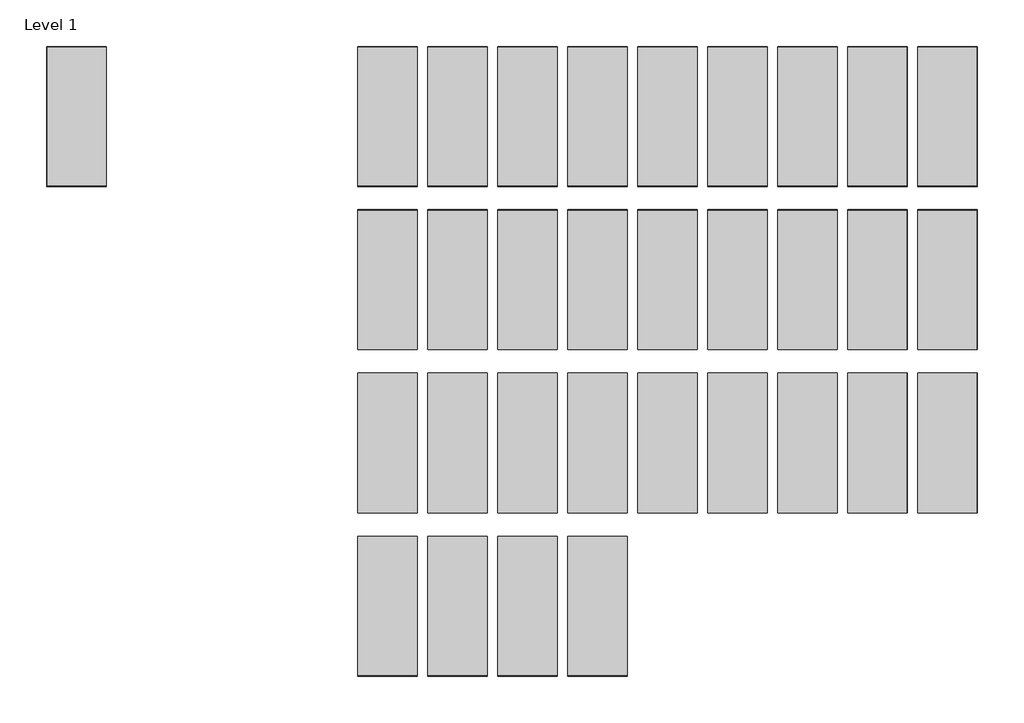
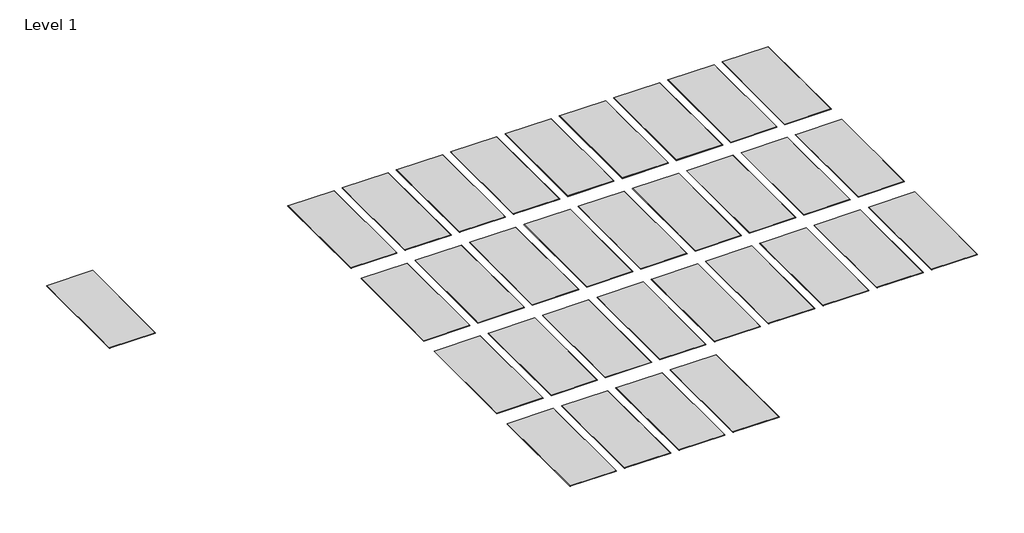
# One storey: 32 proxies.
"""IFC4 building model written with IfcOpenShell, lengths in millimetres."""

from ifc_helpers import new_model, si_unit, origin, place, context, project, spatial, transform, mapped, element, save
from components import proxy_101_frost_12_mm_5309bba6

model = new_model("IFC4")

# Units and contexts
model_context = context("Model", 3, world=origin())
ifc_project = project(units=[si_unit("LENGTHUNIT", "METRE", prefix="MILLI")], contexts=[model_context])

# Site, building, storey
site = spatial("IfcSite", under=ifc_project)
building = spatial("IfcBuilding", under=site)
storey = spatial("IfcBuildingStorey", under=building, Name="Level 1", Elevation=0.0)

# Proxies
placement = place(None, origin())
proxy_101_frost_12_mm_shape = proxy_101_frost_12_mm_5309bba6(model_context)
element("IfcBuildingElementProxy", 1, Name="Wall-Panel-Kirei_USA-EchoLine-Roman_Panels : 108 Sunshine - 12 mm", ObjectType="Wall-Panel-Kirei_USA-EchoLine-Roman_Panels : 108 Sunshine - 12 mm", at=placement, inside=storey, context=model_context, shape_type="MappedRepresentation", body=[
    mapped(proxy_101_frost_12_mm_shape, transform((1981.2, -21640.8, 0.0), x_axis=(1.0, 0.0, 0.0), y_axis=(0.0, 1.0, 0.0), z_axis=(0.0, 0.0, 1.0))),
])
element("IfcBuildingElementProxy", 2, Name="Wall-Panel-Kirei_USA-EchoLine-Roman_Panels : 167 Cinnamon - 12 mm", ObjectType="Wall-Panel-Kirei_USA-EchoLine-Roman_Panels : 167 Cinnamon - 12 mm", at=placement, inside=storey, context=model_context, shape_type="MappedRepresentation", body=[
    mapped(proxy_101_frost_12_mm_shape, transform((4724.4, -21640.8, 0.0), x_axis=(1.0, 0.0, 0.0), y_axis=(0.0, 1.0, 0.0), z_axis=(0.0, 0.0, 1.0))),
])
element("IfcBuildingElementProxy", 3, Name="Wall-Panel-Kirei_USA-EchoLine-Roman_Panels : 274 Orchid - 12 mm", ObjectType="Wall-Panel-Kirei_USA-EchoLine-Roman_Panels : 274 Orchid - 12 mm", at=placement, inside=storey, context=model_context, shape_type="MappedRepresentation", body=[
    mapped(proxy_101_frost_12_mm_shape, transform((8839.2, -21640.8, 0.0), x_axis=(1.0, 0.0, 0.0), y_axis=(0.0, 1.0, 0.0), z_axis=(0.0, 0.0, 1.0))),
])
element("IfcBuildingElementProxy", 4, Name="Wall-Panel-Kirei_USA-EchoLine-Roman_Panels : 295 Mandarin - 12 mm", ObjectType="Wall-Panel-Kirei_USA-EchoLine-Roman_Panels : 295 Mandarin - 12 mm", at=placement, inside=storey, context=model_context, shape_type="MappedRepresentation", body=[
    mapped(proxy_101_frost_12_mm_shape, transform((11582.4, -21640.8, 0.0), x_axis=(1.0, 0.0, 0.0), y_axis=(0.0, 1.0, 0.0), z_axis=(0.0, 0.0, 1.0))),
])
element("IfcBuildingElementProxy", 5, Name="Wall-Panel-Kirei_USA-EchoLine-Roman_Panels : 330 Ivy - 12 mm", ObjectType="Wall-Panel-Kirei_USA-EchoLine-Roman_Panels : 330 Ivy - 12 mm", at=placement, inside=storey, context=model_context, shape_type="MappedRepresentation", body=[
    mapped(proxy_101_frost_12_mm_shape, transform((609.6, -24841.2, 0.0), x_axis=(1.0, 0.0, 0.0), y_axis=(0.0, 1.0, 0.0), z_axis=(0.0, 0.0, 1.0))),
])
element("IfcBuildingElementProxy", 6, Name="Wall-Panel-Kirei_USA-EchoLine-Roman_Panels : 338 Jade - 12 mm", ObjectType="Wall-Panel-Kirei_USA-EchoLine-Roman_Panels : 338 Jade - 12 mm", at=placement, inside=storey, context=model_context, shape_type="MappedRepresentation", body=[
    mapped(proxy_101_frost_12_mm_shape, transform((1981.2, -24841.2, 0.0), x_axis=(1.0, 0.0, 0.0), y_axis=(0.0, 1.0, 0.0), z_axis=(0.0, 0.0, 1.0))),
])
element("IfcBuildingElementProxy", 7, Name="Wall-Panel-Kirei_USA-EchoLine-Roman_Panels : 349 Vineyard - 12 mm", ObjectType="Wall-Panel-Kirei_USA-EchoLine-Roman_Panels : 349 Vineyard - 12 mm", at=placement, inside=storey, context=model_context, shape_type="MappedRepresentation", body=[
    mapped(proxy_101_frost_12_mm_shape, transform((3352.8, -24841.2, 0.0), x_axis=(1.0, 0.0, 0.0), y_axis=(0.0, 1.0, 0.0), z_axis=(0.0, 0.0, 1.0))),
])
element("IfcBuildingElementProxy", 8, Name="Wall-Panel-Kirei_USA-EchoLine-Roman_Panels : 551 Duck Egg - 12 mm", ObjectType="Wall-Panel-Kirei_USA-EchoLine-Roman_Panels : 551 Duck Egg - 12 mm", at=placement, inside=storey, context=model_context, shape_type="MappedRepresentation", body=[
    mapped(proxy_101_frost_12_mm_shape, transform((10210.8, -28041.6, 0.0), x_axis=(1.0, 0.0, 0.0), y_axis=(0.0, 1.0, 0.0), z_axis=(0.0, 0.0, 1.0))),
])
element("IfcBuildingElementProxy", 9, Name="Wall-Panel-Kirei_USA-EchoLine-Roman_Panels : 579 Pistachio - 12 mm", ObjectType="Wall-Panel-Kirei_USA-EchoLine-Roman_Panels : 579 Pistachio - 12 mm", at=placement, inside=storey, context=model_context, shape_type="MappedRepresentation", body=[
    mapped(proxy_101_frost_12_mm_shape, transform((11582.4, -28041.6, 0.0), x_axis=(1.0, 0.0, 0.0), y_axis=(0.0, 1.0, 0.0), z_axis=(0.0, 0.0, 1.0))),
])
element("IfcBuildingElementProxy", 10, Name="Wall-Panel-Kirei_USA-EchoLine-Roman_Panels : 633 Pacific - 12 mm", ObjectType="Wall-Panel-Kirei_USA-EchoLine-Roman_Panels : 633 Pacific - 12 mm", at=placement, inside=storey, context=model_context, shape_type="MappedRepresentation", body=[
    mapped(proxy_101_frost_12_mm_shape, transform((1981.2, -31242.0, 0.0), x_axis=(1.0, 0.0, 0.0), y_axis=(0.0, 1.0, 0.0), z_axis=(0.0, 0.0, 1.0))),
])
element("IfcBuildingElementProxy", 11, Name="Wall-Panel-Kirei_USA-EchoLine-Roman_Panels : 660 Coronet - 12 mm", ObjectType="Wall-Panel-Kirei_USA-EchoLine-Roman_Panels : 660 Coronet - 12 mm", at=placement, inside=storey, context=model_context, shape_type="MappedRepresentation", body=[
    mapped(proxy_101_frost_12_mm_shape, transform((3352.8, -31242.0, 0.0), x_axis=(1.0, 0.0, 0.0), y_axis=(0.0, 1.0, 0.0), z_axis=(0.0, 0.0, 1.0))),
])
element("IfcBuildingElementProxy", 12, Name="Wall-Panel-Kirei_USA-EchoLine-Roman_Panels : 101 Frost - 12 mm", ObjectType="Wall-Panel-Kirei_USA-EchoLine-Roman_Panels : 101 Frost - 12 mm", at=placement, inside=storey, context=model_context, shape_type="MappedRepresentation", body=[
    mapped(proxy_101_frost_12_mm_shape, transform((609.6, -21640.8, 0.0), x_axis=(1.0, 0.0, 0.0), y_axis=(0.0, 1.0, 0.0), z_axis=(0.0, 0.0, 1.0))),
])
element("IfcBuildingElementProxy", 13, Name="Wall-Panel-Kirei_USA-EchoLine-Roman_Panels : 101 Frost - 12 mm", ObjectType="Wall-Panel-Kirei_USA-EchoLine-Roman_Panels : 101 Frost - 12 mm", at=placement, inside=storey, context=model_context, shape_type="MappedRepresentation", body=[
    mapped(proxy_101_frost_12_mm_shape, transform((-5486.4, -21640.8, 0.0), x_axis=(1.0, 0.0, 0.0), y_axis=(0.0, 1.0, 0.0), z_axis=(0.0, 0.0, 1.0))),
])
element("IfcBuildingElementProxy", 14, Name="Wall-Panel-Kirei_USA-EchoLine-Roman_Panels : 124 Ochre - 12 mm", ObjectType="Wall-Panel-Kirei_USA-EchoLine-Roman_Panels : 124 Ochre - 12 mm", at=placement, inside=storey, context=model_context, shape_type="MappedRepresentation", body=[
    mapped(proxy_101_frost_12_mm_shape, transform((3352.8, -21640.8, 0.0), x_axis=(1.0, 0.0, 0.0), y_axis=(0.0, 1.0, 0.0), z_axis=(0.0, 0.0, 1.0))),
])
element("IfcBuildingElementProxy", 15, Name="Wall-Panel-Kirei_USA-EchoLine-Roman_Panels : 193 Rouge - 12 mm", ObjectType="Wall-Panel-Kirei_USA-EchoLine-Roman_Panels : 193 Rouge - 12 mm", at=placement, inside=storey, context=model_context, shape_type="MappedRepresentation", body=[
    mapped(proxy_101_frost_12_mm_shape, transform((6096.0, -21640.8, 0.0), x_axis=(1.0, 0.0, 0.0), y_axis=(0.0, 1.0, 0.0), z_axis=(0.0, 0.0, 1.0))),
])
element("IfcBuildingElementProxy", 16, Name="Wall-Panel-Kirei_USA-EchoLine-Roman_Panels : 269 Wine - 12 mm", ObjectType="Wall-Panel-Kirei_USA-EchoLine-Roman_Panels : 269 Wine - 12 mm", at=placement, inside=storey, context=model_context, shape_type="MappedRepresentation", body=[
    mapped(proxy_101_frost_12_mm_shape, transform((7467.6, -21640.8, 0.0), x_axis=(1.0, 0.0, 0.0), y_axis=(0.0, 1.0, 0.0), z_axis=(0.0, 0.0, 1.0))),
])
element("IfcBuildingElementProxy", 17, Name="Wall-Panel-Kirei_USA-EchoLine-Roman_Panels : 276 Lavender - 12 mm", ObjectType="Wall-Panel-Kirei_USA-EchoLine-Roman_Panels : 276 Lavender - 12 mm", at=placement, inside=storey, context=model_context, shape_type="MappedRepresentation", body=[
    mapped(proxy_101_frost_12_mm_shape, transform((10210.8, -21640.8, 0.0), x_axis=(1.0, 0.0, 0.0), y_axis=(0.0, 1.0, 0.0), z_axis=(0.0, 0.0, 1.0))),
])
element("IfcBuildingElementProxy", 18, Name="Wall-Panel-Kirei_USA-EchoLine-Roman_Panels : 365 Navy - 12 mm", ObjectType="Wall-Panel-Kirei_USA-EchoLine-Roman_Panels : 365 Navy - 12 mm", at=placement, inside=storey, context=model_context, shape_type="MappedRepresentation", body=[
    mapped(proxy_101_frost_12_mm_shape, transform((4724.4, -24841.2, 0.0), x_axis=(1.0, 0.0, 0.0), y_axis=(0.0, 1.0, 0.0), z_axis=(0.0, 0.0, 1.0))),
])
element("IfcBuildingElementProxy", 19, Name="Wall-Panel-Kirei_USA-EchoLine-Roman_Panels : 381 Lime Splice - 12 mm", ObjectType="Wall-Panel-Kirei_USA-EchoLine-Roman_Panels : 381 Lime Splice - 12 mm", at=placement, inside=storey, context=model_context, shape_type="MappedRepresentation", body=[
    mapped(proxy_101_frost_12_mm_shape, transform((6096.0, -24841.2, 0.0), x_axis=(1.0, 0.0, 0.0), y_axis=(0.0, 1.0, 0.0), z_axis=(0.0, 0.0, 1.0))),
])
element("IfcBuildingElementProxy", 20, Name="Wall-Panel-Kirei_USA-EchoLine-Roman_Panels : 384 Olive - 12 mm", ObjectType="Wall-Panel-Kirei_USA-EchoLine-Roman_Panels : 384 Olive - 12 mm", at=placement, inside=storey, context=model_context, shape_type="MappedRepresentation", body=[
    mapped(proxy_101_frost_12_mm_shape, transform((7467.6, -24841.2, 0.0), x_axis=(1.0, 0.0, 0.0), y_axis=(0.0, 1.0, 0.0), z_axis=(0.0, 0.0, 1.0))),
])
element("IfcBuildingElementProxy", 21, Name="Wall-Panel-Kirei_USA-EchoLine-Roman_Panels : 402 Pebble - 12 mm", ObjectType="Wall-Panel-Kirei_USA-EchoLine-Roman_Panels : 402 Pebble - 12 mm", at=placement, inside=storey, context=model_context, shape_type="MappedRepresentation", body=[
    mapped(proxy_101_frost_12_mm_shape, transform((8839.2, -24841.2, 0.0), x_axis=(1.0, 0.0, 0.0), y_axis=(0.0, 1.0, 0.0), z_axis=(0.0, 0.0, 1.0))),
])
element("IfcBuildingElementProxy", 22, Name="Wall-Panel-Kirei_USA-EchoLine-Roman_Panels : 442 Gray - 12 mm", ObjectType="Wall-Panel-Kirei_USA-EchoLine-Roman_Panels : 442 Gray - 12 mm", at=placement, inside=storey, context=model_context, shape_type="MappedRepresentation", body=[
    mapped(proxy_101_frost_12_mm_shape, transform((10210.8, -24841.2, 0.0), x_axis=(1.0, 0.0, 0.0), y_axis=(0.0, 1.0, 0.0), z_axis=(0.0, 0.0, 1.0))),
])
element("IfcBuildingElementProxy", 23, Name="Wall-Panel-Kirei_USA-EchoLine-Roman_Panels : 444 Smoke - 12 mm", ObjectType="Wall-Panel-Kirei_USA-EchoLine-Roman_Panels : 444 Smoke - 12 mm", at=placement, inside=storey, context=model_context, shape_type="MappedRepresentation", body=[
    mapped(proxy_101_frost_12_mm_shape, transform((11582.4, -24841.2, 0.0), x_axis=(1.0, 0.0, 0.0), y_axis=(0.0, 1.0, 0.0), z_axis=(0.0, 0.0, 1.0))),
])
element("IfcBuildingElementProxy", 24, Name="Wall-Panel-Kirei_USA-EchoLine-Roman_Panels : 447 Slate - 12 mm", ObjectType="Wall-Panel-Kirei_USA-EchoLine-Roman_Panels : 447 Slate - 12 mm", at=placement, inside=storey, context=model_context, shape_type="MappedRepresentation", body=[
    mapped(proxy_101_frost_12_mm_shape, transform((609.6, -28041.6, 0.0), x_axis=(1.0, 0.0, 0.0), y_axis=(0.0, 1.0, 0.0), z_axis=(0.0, 0.0, 1.0))),
])
element("IfcBuildingElementProxy", 25, Name="Wall-Panel-Kirei_USA-EchoLine-Roman_Panels : 454 Mushroom - 12 mm", ObjectType="Wall-Panel-Kirei_USA-EchoLine-Roman_Panels : 454 Mushroom - 12 mm", at=placement, inside=storey, context=model_context, shape_type="MappedRepresentation", body=[
    mapped(proxy_101_frost_12_mm_shape, transform((1981.2, -28041.6, 0.0), x_axis=(1.0, 0.0, 0.0), y_axis=(0.0, 1.0, 0.0), z_axis=(0.0, 0.0, 1.0))),
])
element("IfcBuildingElementProxy", 26, Name="Wall-Panel-Kirei_USA-EchoLine-Roman_Panels : 468 Vanilla - 12 mm", ObjectType="Wall-Panel-Kirei_USA-EchoLine-Roman_Panels : 468 Vanilla - 12 mm", at=placement, inside=storey, context=model_context, shape_type="MappedRepresentation", body=[
    mapped(proxy_101_frost_12_mm_shape, transform((3352.8, -28041.6, 0.0), x_axis=(1.0, 0.0, 0.0), y_axis=(0.0, 1.0, 0.0), z_axis=(0.0, 0.0, 1.0))),
])
element("IfcBuildingElementProxy", 27, Name="Wall-Panel-Kirei_USA-EchoLine-Roman_Panels : 487 Blush - 12 mm", ObjectType="Wall-Panel-Kirei_USA-EchoLine-Roman_Panels : 487 Blush - 12 mm", at=placement, inside=storey, context=model_context, shape_type="MappedRepresentation", body=[
    mapped(proxy_101_frost_12_mm_shape, transform((4724.4, -28041.6, 0.0), x_axis=(1.0, 0.0, 0.0), y_axis=(0.0, 1.0, 0.0), z_axis=(0.0, 0.0, 1.0))),
])
element("IfcBuildingElementProxy", 28, Name="Wall-Panel-Kirei_USA-EchoLine-Roman_Panels : 500 White - 12 mm", ObjectType="Wall-Panel-Kirei_USA-EchoLine-Roman_Panels : 500 White - 12 mm", at=placement, inside=storey, context=model_context, shape_type="MappedRepresentation", body=[
    mapped(proxy_101_frost_12_mm_shape, transform((6096.0, -28041.6, 0.0), x_axis=(1.0, 0.0, 0.0), y_axis=(0.0, 1.0, 0.0), z_axis=(0.0, 0.0, 1.0))),
])
element("IfcBuildingElementProxy", 29, Name="Wall-Panel-Kirei_USA-EchoLine-Roman_Panels : 542 Black - 12 mm", ObjectType="Wall-Panel-Kirei_USA-EchoLine-Roman_Panels : 542 Black - 12 mm", at=placement, inside=storey, context=model_context, shape_type="MappedRepresentation", body=[
    mapped(proxy_101_frost_12_mm_shape, transform((7467.6, -28041.6, 0.0), x_axis=(1.0, 0.0, 0.0), y_axis=(0.0, 1.0, 0.0), z_axis=(0.0, 0.0, 1.0))),
])
element("IfcBuildingElementProxy", 30, Name="Wall-Panel-Kirei_USA-EchoLine-Roman_Panels : 550 Onyx - 12 mm", ObjectType="Wall-Panel-Kirei_USA-EchoLine-Roman_Panels : 550 Onyx - 12 mm", at=placement, inside=storey, context=model_context, shape_type="MappedRepresentation", body=[
    mapped(proxy_101_frost_12_mm_shape, transform((8839.2, -28041.6, 0.0), x_axis=(1.0, 0.0, 0.0), y_axis=(0.0, 1.0, 0.0), z_axis=(0.0, 0.0, 1.0))),
])
element("IfcBuildingElementProxy", 31, Name="Wall-Panel-Kirei_USA-EchoLine-Roman_Panels : 580 Sage - 12 mm", ObjectType="Wall-Panel-Kirei_USA-EchoLine-Roman_Panels : 580 Sage - 12 mm", at=placement, inside=storey, context=model_context, shape_type="MappedRepresentation", body=[
    mapped(proxy_101_frost_12_mm_shape, transform((609.6, -31242.0, 0.0), x_axis=(1.0, 0.0, 0.0), y_axis=(0.0, 1.0, 0.0), z_axis=(0.0, 0.0, 1.0))),
])
element("IfcBuildingElementProxy", 32, Name="Wall-Panel-Kirei_USA-EchoLine-Roman_Panels : 908 Cream - 12 mm", ObjectType="Wall-Panel-Kirei_USA-EchoLine-Roman_Panels : 908 Cream - 12 mm", at=placement, inside=storey, context=model_context, shape_type="MappedRepresentation", body=[
    mapped(proxy_101_frost_12_mm_shape, transform((4724.4, -31242.0, 0.0), x_axis=(1.0, 0.0, 0.0), y_axis=(0.0, 1.0, 0.0), z_axis=(0.0, 0.0, 1.0))),
])

save(model, "model.ifc")
